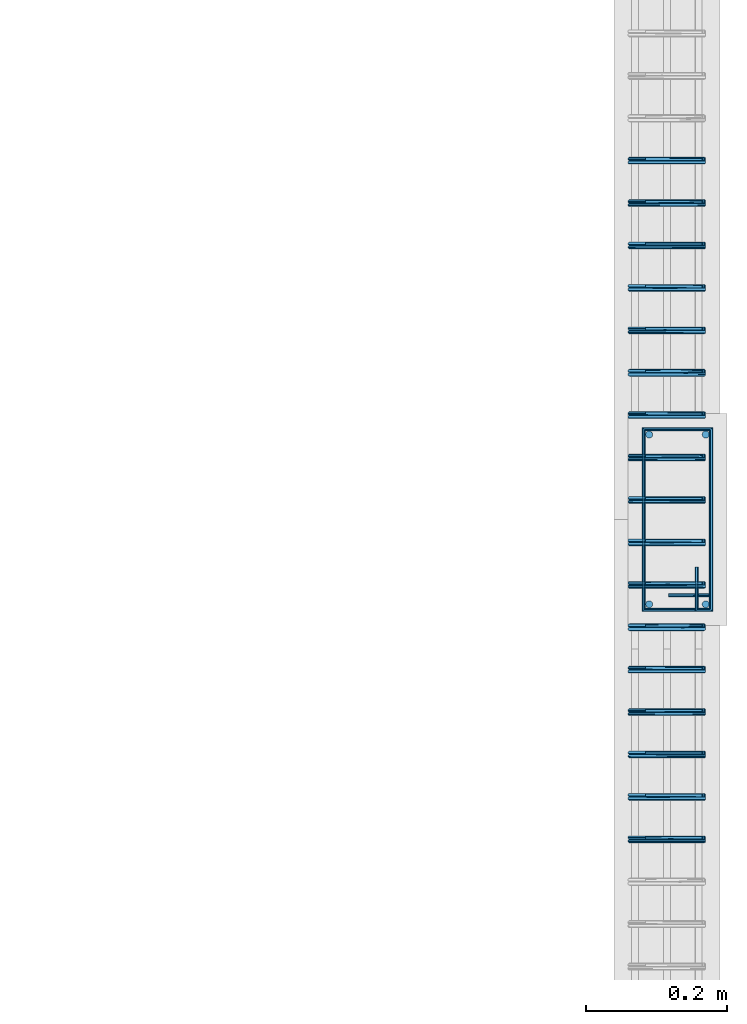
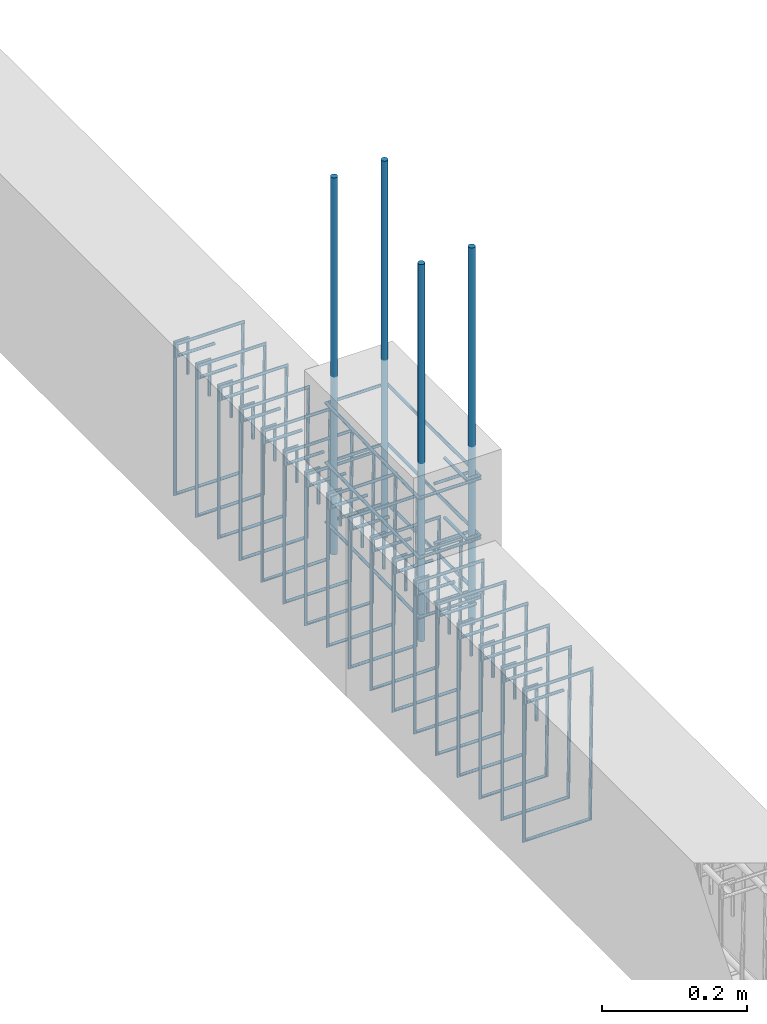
# One storey, part 98 of 150: 24 reinforcing bars.
"""IFC4 building model written with IfcOpenShell, lengths in centimetres."""

from ifc_helpers import new_model, entity, si_unit, derived_unit, frame, origin_with_axes, place, context, project, spatial, source, transform, mapped, element, save


model = new_model("IFC4")

# Units and contexts
model_context = context("Model", 3, precision=1e-05, world=origin_with_axes(), identifier="Body")
ifc_project = project(units=[si_unit("LENGTHUNIT", "METRE", prefix="CENTI"), si_unit("VOLUMEUNIT", "CUBIC_METRE"), si_unit("AREAUNIT", "SQUARE_METRE"), si_unit("POWERUNIT", "WATT"), si_unit("LUMINOUSFLUXUNIT", "LUMEN"), si_unit("ELECTRICCURRENTUNIT", "AMPERE"), si_unit("PRESSUREUNIT", "PASCAL", prefix="KILO"), si_unit("MASSUNIT", "GRAM", prefix="KILO"), si_unit("PLANEANGLEUNIT", "RADIAN"), derived_unit("VOLUMETRICFLOWRATEUNIT", [(si_unit("LENGTHUNIT", "METRE"), 3), (si_unit("TIMEUNIT", "SECOND"), -1)])], contexts=[model_context])

# Site, building, storey
site_placement = place(None, frame((-4000.0, 0.0, 0.0), z_axis=(0.0, 0.0, 1.0), x_axis=(1.0, 0.0, 0.0)))
site = spatial("IfcSite", under=ifc_project, at=site_placement, Name="PADRÃO")
building_placement = place(site_placement, frame((0.0, 0.0, -14.0)))
building = spatial("IfcBuilding", under=site, at=building_placement, Name="CRECHE PRÉ-ESCOLA TIPO 2")
placement = place(building_placement, origin_with_axes())
storey_placement = place(placement, frame((0.0, 0.0, 30.0), z_axis=(0.0, 0.0, 1.0), x_axis=(1.0, 0.0, 0.0)))
storey = spatial("IfcBuildingStorey", under=building, at=storey_placement, Name="VIGA BALDRAME", CompositionType="ELEMENT", Elevation=16.0)

# Reinforcing bars
shared_shape_1 = source(origin_with_axes(), model_context, "Body", "AdvancedSweptSolid", [
    entity("IfcSweptDiskSolid", entity("IfcCompositeCurve", [entity("IfcCompositeCurveSegment", "CONTINUOUS", True, entity("IfcPolyline", [entity("IfcCartesianPoint", [4.25, 21.75, 0.0]), entity("IfcCartesianPoint", [4.25, 27.75, 0.0])])), entity("IfcCompositeCurveSegment", "CONTINUOUS", True, entity("IfcPolyline", [entity("IfcCartesianPoint", [4.25, 27.75, 0.0]), entity("IfcCartesianPoint", [2.25, 27.75, 0.0])])), entity("IfcCompositeCurveSegment", "CONTINUOUS", True, entity("IfcPolyline", [entity("IfcCartesianPoint", [2.25, 27.75, 0.0]), entity("IfcCartesianPoint", [2.25, 2.25, 0.0])])), entity("IfcCompositeCurveSegment", "CONTINUOUS", True, entity("IfcPolyline", [entity("IfcCartesianPoint", [2.25, 2.25, 0.0]), entity("IfcCartesianPoint", [11.75, 2.25, 0.0])])), entity("IfcCompositeCurveSegment", "CONTINUOUS", True, entity("IfcPolyline", [entity("IfcCartesianPoint", [11.75, 2.25, 0.0]), entity("IfcCartesianPoint", [11.75, 27.75, -0.5])])), entity("IfcCompositeCurveSegment", "CONTINUOUS", True, entity("IfcPolyline", [entity("IfcCartesianPoint", [11.75, 27.75, -0.5]), entity("IfcCartesianPoint", [2.25, 27.75, -0.5])])), entity("IfcCompositeCurveSegment", "CONTINUOUS", True, entity("IfcPolyline", [entity("IfcCartesianPoint", [2.25, 27.75, -0.5]), entity("IfcCartesianPoint", [2.25, 25.75, -0.5])])), entity("IfcCompositeCurveSegment", "CONTINUOUS", True, entity("IfcPolyline", [entity("IfcCartesianPoint", [2.25, 25.75, -0.5]), entity("IfcCartesianPoint", [8.25, 25.75, -0.5])]))], False), 0.25),
])
for number, where, z_axis, x_axis, name in (
    (1, (4000.0, 1167.11, -15.0), (0.0, 0.0, 1.0), (-1.0, 0.0, 0.0), "P115 - Estribo"),
    (2, (4000.0, 1167.11, -5.0), (0.0, 0.0, 1.0), (-1.0, 0.0, 0.0), "P115 - Estribo"),
    (3, (4000.0, 1167.11, -25.0), (0.0, 0.0, 1.0), (-1.0, 0.0, 0.0), "P115 - Estribo"),
):
    element("IfcReinforcingBar", number, at=place(storey_placement, frame(where, z_axis=z_axis, x_axis=x_axis)), inside=storey, Name=name, BarLength=0.0, CrossSectionArea=1.9634954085e-05, NominalDiameter=0.5, PredefinedType="MAIN", context=model_context, shape_type="MappedRepresentation", body=[
        mapped(shared_shape_1, transform((0.0, 0.0, 0.0), scale=1.0)),
    ])
shared_shape_2 = source(origin_with_axes(), model_context, "Body", "AdvancedSweptSolid", [
    entity("IfcSweptDiskSolid", entity("IfcCompositeCurve", [entity("IfcCompositeCurveSegment", "CONTINUOUS", True, entity("IfcPolyline", [entity("IfcCartesianPoint", [2.0, -6.0, 0.0]), entity("IfcCartesianPoint", [2.0, 0.0, 0.0])])), entity("IfcCompositeCurveSegment", "CONTINUOUS", True, entity("IfcPolyline", [entity("IfcCartesianPoint", [2.0, 0.0, 0.0]), entity("IfcCartesianPoint", [0.0, 0.0, 0.0])])), entity("IfcCompositeCurveSegment", "CONTINUOUS", True, entity("IfcPolyline", [entity("IfcCartesianPoint", [0.0, 0.0, 0.0]), entity("IfcCartesianPoint", [0.0, -25.5, 0.0])])), entity("IfcCompositeCurveSegment", "CONTINUOUS", True, entity("IfcPolyline", [entity("IfcCartesianPoint", [0.0, -25.5, 0.0]), entity("IfcCartesianPoint", [10.5, -25.5, 0.0])])), entity("IfcCompositeCurveSegment", "CONTINUOUS", True, entity("IfcPolyline", [entity("IfcCartesianPoint", [10.5, -25.5, 0.0]), entity("IfcCartesianPoint", [10.5, 0.0, 0.5])])), entity("IfcCompositeCurveSegment", "CONTINUOUS", True, entity("IfcPolyline", [entity("IfcCartesianPoint", [10.5, 0.0, 0.5]), entity("IfcCartesianPoint", [0.0, 0.0, 0.5])])), entity("IfcCompositeCurveSegment", "CONTINUOUS", True, entity("IfcPolyline", [entity("IfcCartesianPoint", [0.0, 0.0, 0.5]), entity("IfcCartesianPoint", [0.0, -2.0, 0.5])])), entity("IfcCompositeCurveSegment", "CONTINUOUS", True, entity("IfcPolyline", [entity("IfcCartesianPoint", [0.0, -2.0, 0.5]), entity("IfcCartesianPoint", [6.0, -2.0, 0.5])]))], False), 0.25),
])
for number, where, z_axis, x_axis, name in (
    (4, (3986.25, 1107.11, -17.25), (0.0, -1.0, 0.0), (1.0, 0.0, 0.0), "V230 - Estribo"),
    (5, (3986.25, 1113.11, -17.25), (0.0, -1.0, 0.0), (1.0, 0.0, 0.0), "V230 - Estribo"),
    (6, (3986.25, 1119.11, -17.25), (0.0, -1.0, 0.0), (1.0, 0.0, 0.0), "V230 - Estribo"),
    (7, (3986.25, 1125.11, -17.25), (0.0, -1.0, 0.0), (1.0, 0.0, 0.0), "V230 - Estribo"),
    (8, (3986.25, 1131.11, -17.25), (0.0, -1.0, 0.0), (1.0, 0.0, 0.0), "V230 - Estribo"),
    (9, (3986.25, 1137.11, -17.25), (0.0, -1.0, 0.0), (1.0, 0.0, 0.0), "V230 - Estribo"),
    (10, (3986.25, 1143.11, -17.25), (0.0, -1.0, 0.0), (1.0, 0.0, 0.0), "V230 - Estribo"),
    (11, (3986.25, 1149.11, -17.25), (0.0, -1.0, 0.0), (1.0, 0.0, 0.0), "V230 - Estribo"),
):
    element("IfcReinforcingBar", number, at=place(storey_placement, frame(where, z_axis=z_axis, x_axis=x_axis)), inside=storey, Name=name, BarLength=0.0, CrossSectionArea=1.9634954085e-05, NominalDiameter=0.5, PredefinedType="MAIN", context=model_context, shape_type="MappedRepresentation", body=[
        mapped(shared_shape_2, transform((0.0, 0.0, 0.0), scale=1.0)),
    ])
shared_shape_3 = source(origin_with_axes(), model_context, "Body", "AdvancedSweptSolid", [
    entity("IfcSweptDiskSolid", entity("IfcCompositeCurve", [entity("IfcCompositeCurveSegment", "CONTINUOUS", True, entity("IfcPolyline", [entity("IfcCartesianPoint", [2.0, -6.0, 0.0]), entity("IfcCartesianPoint", [2.0, 0.0, 0.0])])), entity("IfcCompositeCurveSegment", "CONTINUOUS", True, entity("IfcPolyline", [entity("IfcCartesianPoint", [2.0, 0.0, 0.0]), entity("IfcCartesianPoint", [0.0, 0.0, 0.0])])), entity("IfcCompositeCurveSegment", "CONTINUOUS", True, entity("IfcPolyline", [entity("IfcCartesianPoint", [0.0, 0.0, 0.0]), entity("IfcCartesianPoint", [0.0, -25.5, 0.0])])), entity("IfcCompositeCurveSegment", "CONTINUOUS", True, entity("IfcPolyline", [entity("IfcCartesianPoint", [0.0, -25.5, 0.0]), entity("IfcCartesianPoint", [10.5, -25.5, 0.0])])), entity("IfcCompositeCurveSegment", "CONTINUOUS", True, entity("IfcPolyline", [entity("IfcCartesianPoint", [10.5, -25.5, 0.0]), entity("IfcCartesianPoint", [10.5, 0.0, 0.5])])), entity("IfcCompositeCurveSegment", "CONTINUOUS", True, entity("IfcPolyline", [entity("IfcCartesianPoint", [10.5, 0.0, 0.5]), entity("IfcCartesianPoint", [0.0, 0.0, 0.5])])), entity("IfcCompositeCurveSegment", "CONTINUOUS", True, entity("IfcPolyline", [entity("IfcCartesianPoint", [0.0, 0.0, 0.5]), entity("IfcCartesianPoint", [0.0, -2.0, 0.5])])), entity("IfcCompositeCurveSegment", "CONTINUOUS", True, entity("IfcPolyline", [entity("IfcCartesianPoint", [0.0, -2.0, 0.5]), entity("IfcCartesianPoint", [6.0, -2.0, 0.5])]))], False), 0.25),
])
for number, where, z_axis, x_axis, name in (
    (12, (3986.25, 1155.11, -17.25), (0.0, -1.0, 0.0), (1.0, 0.0, 0.0), "V230 - Estribo"),
    (13, (3986.25, 1161.11, -17.25), (0.0, -1.0, 0.0), (1.0, 0.0, 0.0), "V230 - Estribo"),
    (14, (3986.25, 1167.11, -17.25), (0.0, -1.0, 0.0), (1.0, 0.0, 0.0), "V230 - Estribo"),
    (15, (3986.25, 1173.11, -17.25), (0.0, -1.0, 0.0), (1.0, 0.0, 0.0), "V230 - Estribo"),
    (16, (3986.25, 1179.11, -17.25), (0.0, -1.0, 0.0), (1.0, 0.0, 0.0), "V230 - Estribo"),
    (17, (3986.25, 1185.11, -17.25), (0.0, -1.0, 0.0), (1.0, 0.0, 0.0), "V230 - Estribo"),
    (18, (3986.25, 1191.11, -17.25), (0.0, -1.0, 0.0), (1.0, 0.0, 0.0), "V230 - Estribo"),
    (19, (3986.25, 1197.11, -17.25), (0.0, -1.0, 0.0), (1.0, 0.0, 0.0), "V230 - Estribo"),
    (20, (3986.25, 1203.11, -17.25), (0.0, -1.0, 0.0), (1.0, 0.0, 0.0), "V230 - Estribo"),
):
    element("IfcReinforcingBar", number, at=place(storey_placement, frame(where, z_axis=z_axis, x_axis=x_axis)), inside=storey, Name=name, BarLength=0.0, CrossSectionArea=1.9634954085e-05, NominalDiameter=0.5, PredefinedType="MAIN", context=model_context, shape_type="MappedRepresentation", body=[
        mapped(shared_shape_3, transform((0.0, 0.0, 0.0), scale=1.0)),
    ])
for number, where, z_axis, x_axis, name in (
    (21, (3989.0, 1164.11, 33.3573001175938), (0.0, 0.0, 1.0), (1.0, 0.0, 0.0), "P115 - Longitudinal"),
    (22, (3997.0, 1164.11, 33.3573001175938), (0.0, 0.0, 1.0), (1.0, 0.0, 0.0), "P115 - Longitudinal"),
    (23, (3997.0, 1140.11, 33.3573001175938), (0.0, 0.0, 1.0), (1.0, 0.0, 0.0), "P115 - Longitudinal"),
    (24, (3989.0, 1140.11, 33.3573001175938), (0.0, 0.0, 1.0), (1.0, 0.0, 0.0), "P115 - Longitudinal"),
):
    element("IfcReinforcingBar", number, at=place(storey_placement, frame(where, z_axis=z_axis, x_axis=x_axis)), inside=storey, Name=name, BarLength=0.0, CrossSectionArea=7.853981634e-05, NominalDiameter=1.0, PredefinedType="MAIN", context=model_context, shape_type="AdvancedSweptSolid", body=[
        entity("IfcSweptDiskSolid", entity("IfcCompositeCurve", [entity("IfcCompositeCurveSegment", "CONTINUOUS", True, entity("IfcPolyline", [entity("IfcCartesianPoint", [0.0, 0.0, -63.3573001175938]), entity("IfcCartesianPoint", [0.0, 0.0, 0.0])]))], False), 0.5),
    ])

save(model, "model.ifc")
